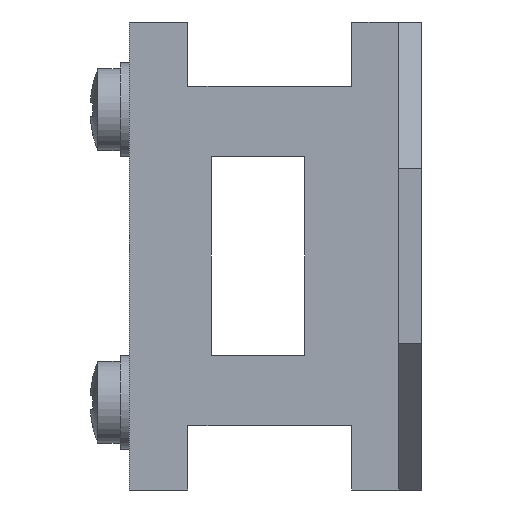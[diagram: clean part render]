
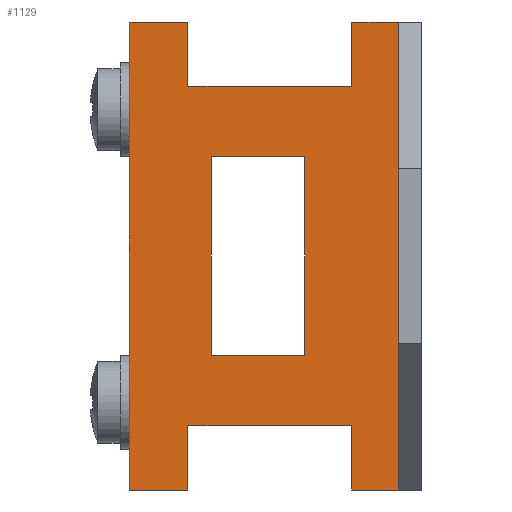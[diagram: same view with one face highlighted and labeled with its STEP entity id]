
A CAD part, left-side view. The second image highlights one B-rep face of the part: STEP entity #1129.
In plain terms, the highlighted planar face has unit normal (-1, 0, 0).
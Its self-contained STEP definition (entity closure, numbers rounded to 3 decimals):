
#54 = LINE ( 'NONE', #57, #56 ) ;
#55 = DIRECTION ( 'NONE',  ( 0., 0., 1. ) ) ;
#56 = VECTOR ( 'NONE', #55, 1000. ) ;
#57 = CARTESIAN_POINT ( 'NONE',  ( -37., 20., 20. ) ) ;
#1071 = VERTEX_POINT ( 'NONE', #2660 ) ;
#1073 = VERTEX_POINT ( 'NONE', #2757 ) ;
#1087 = EDGE_CURVE ( 'NONE', #1071, #1073, #4020, .T. ) ;
#1093 = EDGE_CURVE ( 'NONE', #1098, #3767, #4055, .T. ) ;
#1098 = VERTEX_POINT ( 'NONE', #4044 ) ;
#1112 = ORIENTED_EDGE ( 'NONE', *, *, #1210, .T. ) ;
#1114 = ORIENTED_EDGE ( 'NONE', *, *, #3766, .T. ) ;
#1115 = ORIENTED_EDGE ( 'NONE', *, *, #1116, .F. ) ;
#1116 = EDGE_CURVE ( 'NONE', #1117, #3764, #4012, .T. ) ;
#1117 = VERTEX_POINT ( 'NONE', #4008 ) ;
#1118 = ORIENTED_EDGE ( 'NONE', *, *, #1119, .F. ) ;
#1119 = EDGE_CURVE ( 'NONE', #1120, #1117, #4007, .T. ) ;
#1120 = VERTEX_POINT ( 'NONE', #4145 ) ;
#1121 = ORIENTED_EDGE ( 'NONE', *, *, #1148, .F. ) ;
#1123 = ORIENTED_EDGE ( 'NONE', *, *, #1160, .T. ) ;
#1124 = ORIENTED_EDGE ( 'NONE', *, *, #1140, .T. ) ;
#1129 = ADVANCED_FACE ( 'NONE', ( #4157, #4164 ), #4229, .T. ) ;
#1130 = EDGE_LOOP ( 'NONE', ( #1153, #1157, #1133, #1136 ) ) ;
#1131 = VERTEX_POINT ( 'NONE', #4153 ) ;
#1132 = VERTEX_POINT ( 'NONE', #4152 ) ;
#1133 = ORIENTED_EDGE ( 'NONE', *, *, #1134, .T. ) ;
#1134 = EDGE_CURVE ( 'NONE', #1132, #1135, #4161, .T. ) ;
#1135 = VERTEX_POINT ( 'NONE', #4151 ) ;
#1136 = ORIENTED_EDGE ( 'NONE', *, *, #1146, .T. ) ;
#1137 = VERTEX_POINT ( 'NONE', #4150 ) ;
#1138 = ORIENTED_EDGE ( 'NONE', *, *, #1149, .F. ) ;
#1140 = EDGE_CURVE ( 'NONE', #1208, #1152, #4149, .T. ) ;
#1142 = VERTEX_POINT ( 'NONE', #4227 ) ;
#1143 = ORIENTED_EDGE ( 'NONE', *, *, #1144, .F. ) ;
#1144 = EDGE_CURVE ( 'NONE', #1137, #1142, #4226, .T. ) ;
#1146 = EDGE_CURVE ( 'NONE', #1135, #1156, #4222, .T. ) ;
#1147 = EDGE_LOOP ( 'NONE', ( #1114, #1115, #1118, #1121, #1143, #1138, #1150, #1112, #1124, #1123, #1187, #1220 ) ) ;
#1148 = EDGE_CURVE ( 'NONE', #1142, #1120, #4218, .T. ) ;
#1149 = EDGE_CURVE ( 'NONE', #1073, #1137, #4214, .T. ) ;
#1150 = ORIENTED_EDGE ( 'NONE', *, *, #1087, .F. ) ;
#1152 = VERTEX_POINT ( 'NONE', #4206 ) ;
#1153 = ORIENTED_EDGE ( 'NONE', *, *, #1154, .F. ) ;
#1154 = EDGE_CURVE ( 'NONE', #1155, #1156, #4205, .T. ) ;
#1155 = VERTEX_POINT ( 'NONE', #4201 ) ;
#1156 = VERTEX_POINT ( 'NONE', #4200 ) ;
#1157 = ORIENTED_EDGE ( 'NONE', *, *, #1158, .T. ) ;
#1158 = EDGE_CURVE ( 'NONE', #1155, #1132, #4199, .T. ) ;
#1160 = EDGE_CURVE ( 'NONE', #1152, #1131, #4195, .T. ) ;
#1187 = ORIENTED_EDGE ( 'NONE', *, *, #1188, .T. ) ;
#1188 = EDGE_CURVE ( 'NONE', #1131, #1098, #54, .T. ) ;
#1208 = VERTEX_POINT ( 'NONE', #3663 ) ;
#1210 = EDGE_CURVE ( 'NONE', #1071, #1208, #3662, .T. ) ;
#1220 = ORIENTED_EDGE ( 'NONE', *, *, #1093, .T. ) ;
#2343 = DIRECTION ( 'NONE',  ( 0., 1., 0. ) ) ;
#2660 = CARTESIAN_POINT ( 'NONE',  ( -37., 2., 20. ) ) ;
#2757 = CARTESIAN_POINT ( 'NONE',  ( -37., 2., -20. ) ) ;
#3519 = CARTESIAN_POINT ( 'NONE',  ( -37., 25., -20. ) ) ;
#3623 = CARTESIAN_POINT ( 'NONE',  ( -37., 25., 20. ) ) ;
#3624 = DIRECTION ( 'NONE',  ( 0., 0., -1. ) ) ;
#3625 = VECTOR ( 'NONE', #3624, 1000. ) ;
#3626 = CARTESIAN_POINT ( 'NONE',  ( -37., 25., 20.001 ) ) ;
#3627 = LINE ( 'NONE', #3626, #3625 ) ;
#3660 = VECTOR ( 'NONE', #2343, 1000. ) ;
#3661 = CARTESIAN_POINT ( 'NONE',  ( -37., 25., 20. ) ) ;
#3662 = LINE ( 'NONE', #3661, #3660 ) ;
#3663 = CARTESIAN_POINT ( 'NONE',  ( -37., 6., 20. ) ) ;
#3764 = VERTEX_POINT ( 'NONE', #3519 ) ;
#3766 = EDGE_CURVE ( 'NONE', #3767, #3764, #3627, .T. ) ;
#3767 = VERTEX_POINT ( 'NONE', #3623 ) ;
#4004 = DIRECTION ( 'NONE',  ( 0., 0., -1. ) ) ;
#4005 = VECTOR ( 'NONE', #4004, 1000. ) ;
#4006 = CARTESIAN_POINT ( 'NONE',  ( -37., 20., -20. ) ) ;
#4007 = LINE ( 'NONE', #4006, #4005 ) ;
#4008 = CARTESIAN_POINT ( 'NONE',  ( -37., 20., -20. ) ) ;
#4009 = DIRECTION ( 'NONE',  ( 0., 1., 0. ) ) ;
#4010 = VECTOR ( 'NONE', #4009, 1000. ) ;
#4011 = CARTESIAN_POINT ( 'NONE',  ( -37., 25., -20. ) ) ;
#4012 = LINE ( 'NONE', #4011, #4010 ) ;
#4017 = DIRECTION ( 'NONE',  ( 0., 0., -1. ) ) ;
#4018 = VECTOR ( 'NONE', #4017, 1000. ) ;
#4019 = CARTESIAN_POINT ( 'NONE',  ( -37., 2., 20.001 ) ) ;
#4020 = LINE ( 'NONE', #4019, #4018 ) ;
#4044 = CARTESIAN_POINT ( 'NONE',  ( -37., 20., 20. ) ) ;
#4052 = DIRECTION ( 'NONE',  ( 0., 1., 0. ) ) ;
#4053 = VECTOR ( 'NONE', #4052, 1000. ) ;
#4054 = CARTESIAN_POINT ( 'NONE',  ( -37., 25., 20. ) ) ;
#4055 = LINE ( 'NONE', #4054, #4053 ) ;
#4145 = CARTESIAN_POINT ( 'NONE',  ( -37., 20., -14.5 ) ) ;
#4146 = DIRECTION ( 'NONE',  ( 0., 0., -1. ) ) ;
#4147 = VECTOR ( 'NONE', #4146, 1000. ) ;
#4148 = CARTESIAN_POINT ( 'NONE',  ( -37., 6., 20. ) ) ;
#4149 = LINE ( 'NONE', #4148, #4147 ) ;
#4150 = CARTESIAN_POINT ( 'NONE',  ( -37., 6., -20. ) ) ;
#4151 = CARTESIAN_POINT ( 'NONE',  ( -37., 10., 8.5 ) ) ;
#4152 = CARTESIAN_POINT ( 'NONE',  ( -37., 18., 8.5 ) ) ;
#4153 = CARTESIAN_POINT ( 'NONE',  ( -37., 20., 14.5 ) ) ;
#4154 = DIRECTION ( 'NONE',  ( 0., 0., -1. ) ) ;
#4155 = DIRECTION ( 'NONE',  ( -1., 0., 0. ) ) ;
#4156 = CARTESIAN_POINT ( 'NONE',  ( -37., 25., 20.001 ) ) ;
#4157 = FACE_BOUND ( 'NONE', #1130, .T. ) ;
#4158 = DIRECTION ( 'NONE',  ( 0., -1., 0. ) ) ;
#4159 = VECTOR ( 'NONE', #4158, 1000. ) ;
#4160 = CARTESIAN_POINT ( 'NONE',  ( -37., 18., 8.5 ) ) ;
#4161 = LINE ( 'NONE', #4160, #4159 ) ;
#4162 = AXIS2_PLACEMENT_3D ( 'NONE', #4156, #4155, #4154 ) ;
#4164 = FACE_OUTER_BOUND ( 'NONE', #1147, .T. ) ;
#4192 = DIRECTION ( 'NONE',  ( 0., 1., 0. ) ) ;
#4193 = VECTOR ( 'NONE', #4192, 1000. ) ;
#4194 = CARTESIAN_POINT ( 'NONE',  ( -37., 20., 14.5 ) ) ;
#4195 = LINE ( 'NONE', #4194, #4193 ) ;
#4196 = DIRECTION ( 'NONE',  ( 0., 0., 1. ) ) ;
#4197 = VECTOR ( 'NONE', #4196, 1000. ) ;
#4198 = CARTESIAN_POINT ( 'NONE',  ( -37., 18., 0. ) ) ;
#4199 = LINE ( 'NONE', #4198, #4197 ) ;
#4200 = CARTESIAN_POINT ( 'NONE',  ( -37., 10., -8.5 ) ) ;
#4201 = CARTESIAN_POINT ( 'NONE',  ( -37., 18., -8.5 ) ) ;
#4202 = DIRECTION ( 'NONE',  ( 0., -1., 0. ) ) ;
#4203 = VECTOR ( 'NONE', #4202, 1000. ) ;
#4204 = CARTESIAN_POINT ( 'NONE',  ( -37., 18., -8.5 ) ) ;
#4205 = LINE ( 'NONE', #4204, #4203 ) ;
#4206 = CARTESIAN_POINT ( 'NONE',  ( -37., 6., 14.5 ) ) ;
#4211 = DIRECTION ( 'NONE',  ( 0., 1., 0. ) ) ;
#4212 = VECTOR ( 'NONE', #4211, 1000. ) ;
#4213 = CARTESIAN_POINT ( 'NONE',  ( -37., 25., -20. ) ) ;
#4214 = LINE ( 'NONE', #4213, #4212 ) ;
#4215 = DIRECTION ( 'NONE',  ( 0., 1., 0. ) ) ;
#4216 = VECTOR ( 'NONE', #4215, 1000. ) ;
#4217 = CARTESIAN_POINT ( 'NONE',  ( -37., 20., -14.5 ) ) ;
#4218 = LINE ( 'NONE', #4217, #4216 ) ;
#4219 = DIRECTION ( 'NONE',  ( 0., 0., -1. ) ) ;
#4220 = VECTOR ( 'NONE', #4219, 1000. ) ;
#4221 = CARTESIAN_POINT ( 'NONE',  ( -37., 10., 0. ) ) ;
#4222 = LINE ( 'NONE', #4221, #4220 ) ;
#4223 = DIRECTION ( 'NONE',  ( 0., 0., 1. ) ) ;
#4224 = VECTOR ( 'NONE', #4223, 1000. ) ;
#4225 = CARTESIAN_POINT ( 'NONE',  ( -37., 6., -20. ) ) ;
#4226 = LINE ( 'NONE', #4225, #4224 ) ;
#4227 = CARTESIAN_POINT ( 'NONE',  ( -37., 6., -14.5 ) ) ;
#4229 = PLANE ( 'NONE',  #4162 ) ;
